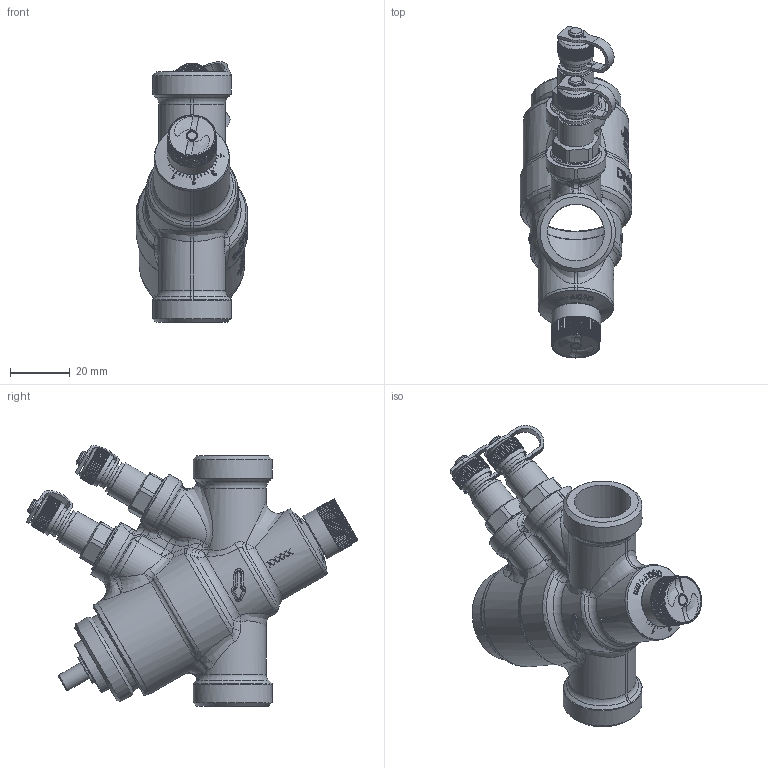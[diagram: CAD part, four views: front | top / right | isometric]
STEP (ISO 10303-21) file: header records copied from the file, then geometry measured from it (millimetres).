
FILE_DESCRIPTION(/* description */ ('Ventil on/off DN15 N/N P/T High'),/* implementation_level */ '2;1');
FILE_NAME(/* name */ 'C:\Users\cbr\Desktop\01-0245.stp',/* time_stamp */ '2019-10-23T09:43:42+02:00',/* author */ ('cbr'),/* organization */ (''),/* preprocessor_version */ 'ST-DEVELOPER v17.2',/* originating_system */ 'Autodesk Inventor 2019',/* authorisation */ '');
FILE_SCHEMA (('AUTOMOTIVE_DESIGN { 1 0 10303 214 3 1 1 }'));
Length unit declared in the file: millimetre
Products named in the file (33): 01-0245; 59771; 901310; 69706; 75609; 68936; 73039-90778; 66591; 66083; 80502; 79168-901310; 73160-901310; 73047; 66592; 80503; 73039-01-02XX; 75315; 67467; 79169; 75612; 90338; 73040 for 90329; 75344_monteret; 73075 for 92005; 90339; 67460; 66588; 67055; 73040 for 67055; 75145; 75345_monteret; 73075 for 90308; 91707_01-0245
Assembly tree (40 placements, depth 3):
  01-0245
    59771
    901310
      69706
      75609
      68936
      73039-90778  x2
      66591
      66083
      80502
      79168-901310
      73160-901310
      73047
      66592
      79169
    80503
    73039-01-02XX
    75315
    67467
    79169
    75612
    90338
      67460
      66588
      67055
      73040 for 90329
      75145  x2
      75344_monteret
      73075 for 92005
    90339
      67460
      66588
      67055
      73040 for 67055
      75145  x2
      75345_monteret
      73075 for 90308
    91707_01-0245
Bounding box: 37.35 x 110.95 x 87.11 mm (x, y, z)
Volume: 51688.1 mm3; surface area: 52953.7 mm2
Topology: 131 solids, 131 shells, 3486 faces, 9404 edges, 6212 vertices
Faces by surface type: plane 1610, bspline 830, cylinder 754, cone 184, torus 96, sphere 12
Full cylindrical faces by diameter (mm): 2 x1, 2.9 x2, 3 x7, 3.1 x2, 3.2 x2, 3.3 x1, 4 x2, 4.3 x2, 5 x6, 6 x3, 6.1 x2, 6.2 x5, 6.3 x1, 7 x3, 7.4 x1, 7.5 x2, 8 x1, 8.3 x2, 8.566 x2, 9 x2, 9.15 x2, 9.2 x2, 9.3 x1, 9.5 x1, 9.6 x2, 9.728 x2, 10 x3, 11 x4, 11.5 x3, 11.7 x4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
Entity records: 130425 total; most frequent: CARTESIAN_POINT 56696, ORIENTED_EDGE 16510, DIRECTION 12699, EDGE_CURVE 8255, VERTEX_POINT 5463, AXIS2_PLACEMENT_3D 4441, LINE 3817, VECTOR 3817
